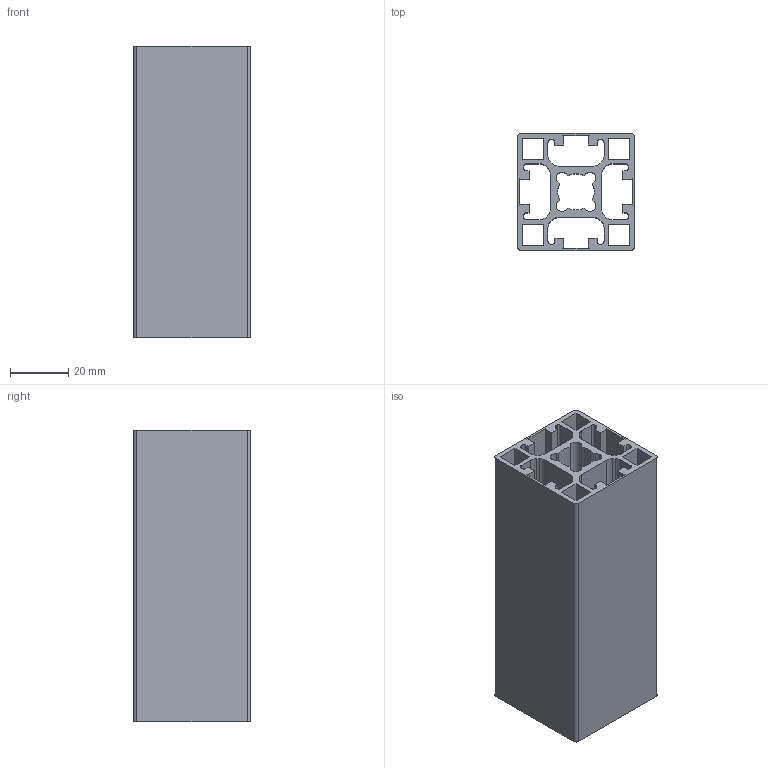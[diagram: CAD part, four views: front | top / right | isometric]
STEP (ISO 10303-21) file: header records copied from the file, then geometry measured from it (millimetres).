
FILE_DESCRIPTION((''),'2;1');
FILE_NAME('C:\Users\de2afr0\Desktop\New folder\MS40+ BC 40x40.stp','2014-02-28T13:12:55',('de2afr0'),(''),'Autodesk Inventor 2011','Autodesk Inventor 2011','');
FILE_SCHEMA(('AUTOMOTIVE_DESIGN { 1 0 10303 214 1 1 1 1 }'));
Length unit declared in the file: millimetre
Products named in the file (1): MB01159201
Bounding box: 40 x 40 x 100 mm (x, y, z)
Volume: 55877.5 mm3; surface area: 59263.5 mm2
Topology: 1 solids, 1 shells, 138 faces, 408 edges, 272 vertices
Faces by surface type: plane 94, cylinder 44
Entity records: 4662 total; most frequent: CARTESIAN_POINT 819, ORIENTED_EDGE 816, DIRECTION 774, EDGE_CURVE 408, VECTOR 320, LINE 320, VERTEX_POINT 272, AXIS2_PLACEMENT_3D 227
